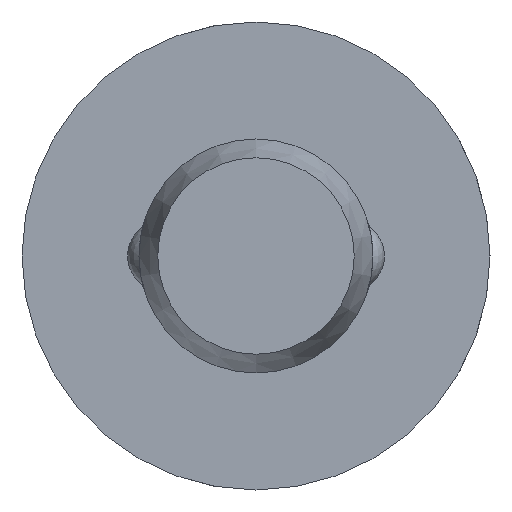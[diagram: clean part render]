
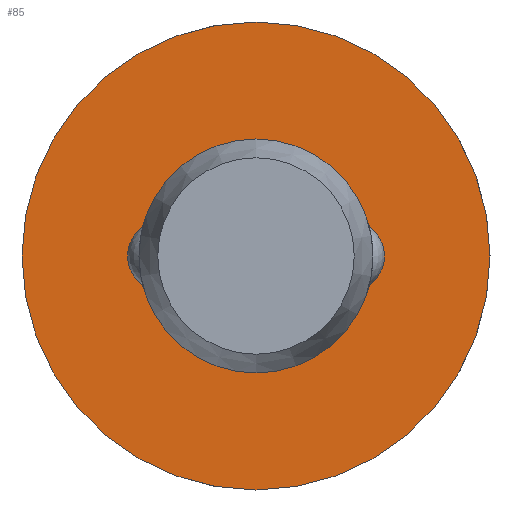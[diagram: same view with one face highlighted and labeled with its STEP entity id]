
A CAD part, left-side view. The second image highlights one B-rep face of the part: STEP entity #85.
In plain terms, the highlighted planar face has unit normal (-1, 0, 0).
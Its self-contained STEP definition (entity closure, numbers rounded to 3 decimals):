
#85 = ADVANCED_FACE( '', ( #131, #132 ), #133, .F. );
#131 = FACE_OUTER_BOUND( '', #204, .T. );
#132 = FACE_BOUND( '', #205, .T. );
#133 = PLANE( '', #206 );
#204 = EDGE_LOOP( '', ( #322 ) );
#205 = EDGE_LOOP( '', ( #323 ) );
#206 = AXIS2_PLACEMENT_3D( '', #324, #325, #326 );
#322 = ORIENTED_EDGE( '', *, *, #470, .F. );
#323 = ORIENTED_EDGE( '', *, *, #467, .T. );
#324 = CARTESIAN_POINT( '', ( 66., 2.5, 0. ) );
#325 = DIRECTION( '', ( 1., 0., 0. ) );
#326 = DIRECTION( '', ( 0., 0., -1. ) );
#467 = EDGE_CURVE( '', #541, #541, #542, .T. );
#470 = EDGE_CURVE( '', #547, #547, #548, .T. );
#541 = VERTEX_POINT( '', #749 );
#542 = CIRCLE( '', #750, 2.5 );
#547 = VERTEX_POINT( '', #801 );
#548 = CIRCLE( '', #802, 5. );
#749 = CARTESIAN_POINT( '', ( 66., 0., -2.5 ) );
#750 = AXIS2_PLACEMENT_3D( '', #881, #882, #883 );
#801 = CARTESIAN_POINT( '', ( 66., 0., -5. ) );
#802 = AXIS2_PLACEMENT_3D( '', #884, #885, #886 );
#881 = CARTESIAN_POINT( '', ( 66., 0., 0. ) );
#882 = DIRECTION( '', ( 1., 0., 0. ) );
#883 = DIRECTION( '', ( 0., 0., -1. ) );
#884 = CARTESIAN_POINT( '', ( 66., 0., 0. ) );
#885 = DIRECTION( '', ( 1., 0., 0. ) );
#886 = DIRECTION( '', ( 0., 0., -1. ) );
